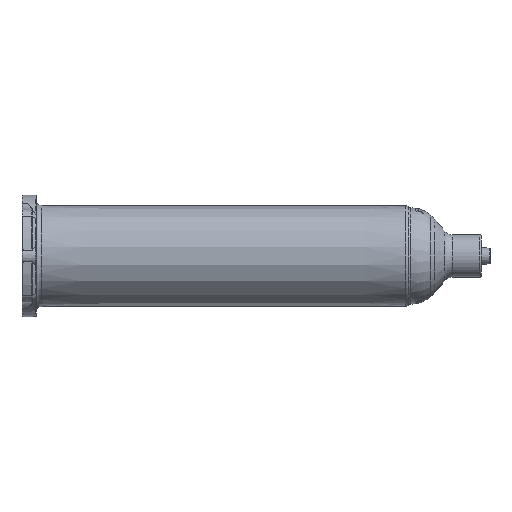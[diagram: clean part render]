
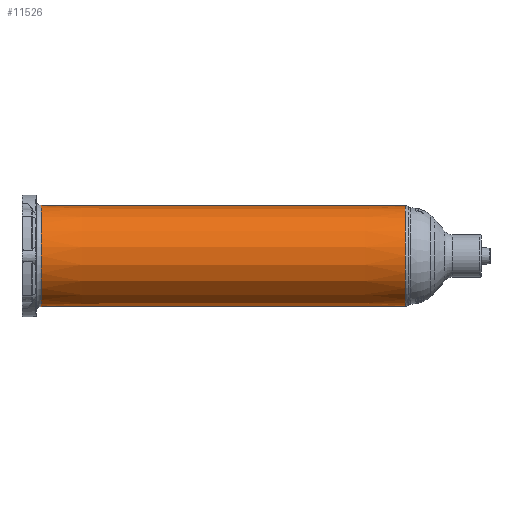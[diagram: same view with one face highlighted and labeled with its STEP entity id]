
A CAD part, left-side view. The second image highlights one B-rep face of the part: STEP entity #11526.
In plain terms, the highlighted conical face has half-angle 0.058 degrees and reference radius 12.641 mm.
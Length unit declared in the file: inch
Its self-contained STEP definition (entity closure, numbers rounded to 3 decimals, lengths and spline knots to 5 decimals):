
#237 = LINE ( 'NONE', #15525, #4454 ) ;
#365 = EDGE_CURVE ( 'NONE', #4220, #1129, #12686, .T. ) ;
#1129 = VERTEX_POINT ( 'NONE', #9545 ) ;
#1516 = AXIS2_PLACEMENT_3D ( 'NONE', #20953, #21099, #13944 ) ;
#2324 = CARTESIAN_POINT ( 'NONE',  ( 0., 0.83945, 0. ) ) ;
#3610 = CONICAL_SURFACE ( 'NONE', #1516, 0.49768, 0.001 ) ;
#3685 = VERTEX_POINT ( 'NONE', #22726 ) ;
#3873 = DIRECTION ( 'NONE',  ( 0., 1., 0. ) ) ;
#4220 = VERTEX_POINT ( 'NONE', #10583 ) ;
#4454 = VECTOR ( 'NONE', #17192, 39.37008 ) ;
#5602 = DIRECTION ( 'NONE',  ( 0., 0., 1. ) ) ;
#6324 = EDGE_LOOP ( 'NONE', ( #16824, #8871, #11074, #11591 ) ) ;
#6718 = VECTOR ( 'NONE', #19340, 39.37008 ) ;
#6722 = CARTESIAN_POINT ( 'NONE',  ( 0., 0.83395, -0.49768 ) ) ;
#7527 = EDGE_CURVE ( 'NONE', #3685, #18720, #22698, .T. ) ;
#8871 = ORIENTED_EDGE ( 'NONE', *, *, #365, .T. ) ;
#9545 = CARTESIAN_POINT ( 'NONE',  ( 0., 0.83945, 0.49768 ) ) ;
#10583 = CARTESIAN_POINT ( 'NONE',  ( 0., 0.83945, -0.49768 ) ) ;
#11074 = ORIENTED_EDGE ( 'NONE', *, *, #21762, .T. ) ;
#11526 = ADVANCED_FACE ( 'NONE', ( #13026 ), #3610, .T. ) ;
#11591 = ORIENTED_EDGE ( 'NONE', *, *, #7527, .T. ) ;
#12686 = CIRCLE ( 'NONE', #15854, 0.49768 ) ;
#13026 = FACE_OUTER_BOUND ( 'NONE', #6324, .T. ) ;
#13508 = EDGE_CURVE ( 'NONE', #4220, #18720, #17211, .T. ) ;
#13944 = DIRECTION ( 'NONE',  ( 0., 0., 1. ) ) ;
#15525 = CARTESIAN_POINT ( 'NONE',  ( 0., 0.83395, 0.49768 ) ) ;
#15854 = AXIS2_PLACEMENT_3D ( 'NONE', #2324, #3873, #16475 ) ;
#16475 = DIRECTION ( 'NONE',  ( 0., 0., -1. ) ) ;
#16596 = CARTESIAN_POINT ( 'NONE',  ( 0., 4.44605, 0. ) ) ;
#16824 = ORIENTED_EDGE ( 'NONE', *, *, #13508, .F. ) ;
#17192 = DIRECTION ( 'NONE',  ( 0., 1., 0.001 ) ) ;
#17211 = LINE ( 'NONE', #6722, #6718 ) ;
#17376 = AXIS2_PLACEMENT_3D ( 'NONE', #16596, #18472, #5602 ) ;
#18472 = DIRECTION ( 'NONE',  ( 0., -1., 0. ) ) ;
#18564 = CARTESIAN_POINT ( 'NONE',  ( 0., 4.44605, -0.50131 ) ) ;
#18720 = VERTEX_POINT ( 'NONE', #18564 ) ;
#19340 = DIRECTION ( 'NONE',  ( 0., 1., -0.001 ) ) ;
#20953 = CARTESIAN_POINT ( 'NONE',  ( 0., 0.83395, 0. ) ) ;
#21099 = DIRECTION ( 'NONE',  ( 0., 1., 0. ) ) ;
#21762 = EDGE_CURVE ( 'NONE', #1129, #3685, #237, .T. ) ;
#22698 = CIRCLE ( 'NONE', #17376, 0.50131 ) ;
#22726 = CARTESIAN_POINT ( 'NONE',  ( 0., 4.44605, 0.50131 ) ) ;
